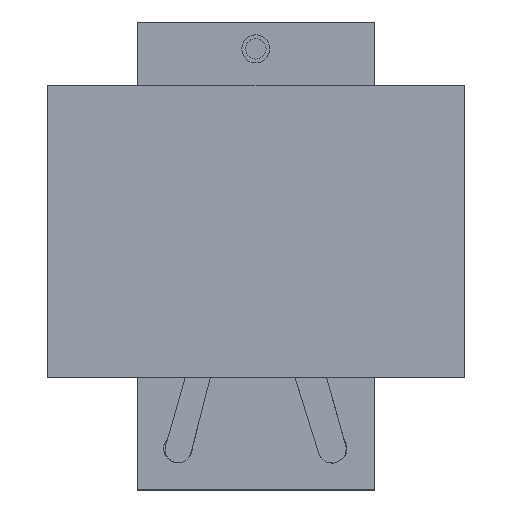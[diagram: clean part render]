
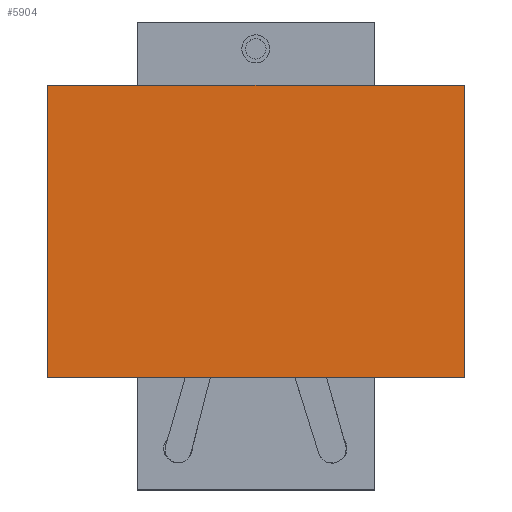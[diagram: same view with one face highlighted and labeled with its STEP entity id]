
A CAD part, top view. The second image highlights one B-rep face of the part: STEP entity #5904.
In plain terms, the highlighted planar face has unit normal (0, 0, 1).
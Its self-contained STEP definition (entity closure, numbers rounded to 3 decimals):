
#1420 = PLANE('',#1421);
#1421 = AXIS2_PLACEMENT_3D('',#1422,#1423,#1424);
#1422 = CARTESIAN_POINT('',(-13.823,9.675,10.22));
#1423 = DIRECTION('',(0.,1.,0.));
#1424 = DIRECTION('',(1.,0.,0.));
#1448 = PLANE('',#1449);
#1449 = AXIS2_PLACEMENT_3D('',#1450,#1451,#1452);
#1450 = CARTESIAN_POINT('',(-13.823,-9.688,10.22));
#1451 = DIRECTION('',(-1.,0.,0.));
#1452 = DIRECTION('',(0.,1.,0.));
#1476 = PLANE('',#1477);
#1477 = AXIS2_PLACEMENT_3D('',#1478,#1479,#1480);
#1478 = CARTESIAN_POINT('',(13.789,-9.688,10.22));
#1479 = DIRECTION('',(0.,-1.,0.));
#1480 = DIRECTION('',(-1.,0.,0.));
#1969 = PLANE('',#1970);
#1970 = AXIS2_PLACEMENT_3D('',#1971,#1972,#1973);
#1971 = CARTESIAN_POINT('',(13.789,9.675,10.22));
#1972 = DIRECTION('',(1.,0.,-0.));
#1973 = DIRECTION('',(0.,-1.,0.));
#3426 = VERTEX_POINT('',#3427);
#3427 = CARTESIAN_POINT('',(-13.823,9.675,12.7));
#3448 = EDGE_CURVE('',#3426,#3449,#3451,.T.);
#3449 = VERTEX_POINT('',#3450);
#3450 = CARTESIAN_POINT('',(13.789,9.675,12.7));
#3451 = SURFACE_CURVE('',#3452,(#3456,#3463),.PCURVE_S1.);
#3452 = LINE('',#3453,#3454);
#3453 = CARTESIAN_POINT('',(-13.823,9.675,12.7));
#3454 = VECTOR('',#3455,1.);
#3455 = DIRECTION('',(1.,0.,0.));
#3456 = PCURVE('',#1420,#3457);
#3457 = DEFINITIONAL_REPRESENTATION('',(#3458),#3462);
#3458 = LINE('',#3459,#3460);
#3459 = CARTESIAN_POINT('',(0.,-2.48));
#3460 = VECTOR('',#3461,1.);
#3461 = DIRECTION('',(1.,0.));
#3462 = ( GEOMETRIC_REPRESENTATION_CONTEXT(2) 
PARAMETRIC_REPRESENTATION_CONTEXT() REPRESENTATION_CONTEXT('2D SPACE',''
  ) );
#3463 = PCURVE('',#3464,#3469);
#3464 = PLANE('',#3465);
#3465 = AXIS2_PLACEMENT_3D('',#3466,#3467,#3468);
#3466 = CARTESIAN_POINT('',(-0.017,-0.006,12.7));
#3467 = DIRECTION('',(0.,0.,1.));
#3468 = DIRECTION('',(1.,0.,0.));
#3469 = DEFINITIONAL_REPRESENTATION('',(#3470),#3474);
#3470 = LINE('',#3471,#3472);
#3471 = CARTESIAN_POINT('',(-13.806,9.681));
#3472 = VECTOR('',#3473,1.);
#3473 = DIRECTION('',(1.,0.));
#3474 = ( GEOMETRIC_REPRESENTATION_CONTEXT(2) 
PARAMETRIC_REPRESENTATION_CONTEXT() REPRESENTATION_CONTEXT('2D SPACE',''
  ) );
#3502 = EDGE_CURVE('',#3449,#3503,#3505,.T.);
#3503 = VERTEX_POINT('',#3504);
#3504 = CARTESIAN_POINT('',(13.789,-9.688,12.7));
#3505 = SURFACE_CURVE('',#3506,(#3510,#3517),.PCURVE_S1.);
#3506 = LINE('',#3507,#3508);
#3507 = CARTESIAN_POINT('',(13.789,9.675,12.7));
#3508 = VECTOR('',#3509,1.);
#3509 = DIRECTION('',(0.,-1.,0.));
#3510 = PCURVE('',#1969,#3511);
#3511 = DEFINITIONAL_REPRESENTATION('',(#3512),#3516);
#3512 = LINE('',#3513,#3514);
#3513 = CARTESIAN_POINT('',(0.,-2.48));
#3514 = VECTOR('',#3515,1.);
#3515 = DIRECTION('',(1.,0.));
#3516 = ( GEOMETRIC_REPRESENTATION_CONTEXT(2) 
PARAMETRIC_REPRESENTATION_CONTEXT() REPRESENTATION_CONTEXT('2D SPACE',''
  ) );
#3517 = PCURVE('',#3464,#3518);
#3518 = DEFINITIONAL_REPRESENTATION('',(#3519),#3523);
#3519 = LINE('',#3520,#3521);
#3520 = CARTESIAN_POINT('',(13.806,9.681));
#3521 = VECTOR('',#3522,1.);
#3522 = DIRECTION('',(0.,-1.));
#3523 = ( GEOMETRIC_REPRESENTATION_CONTEXT(2) 
PARAMETRIC_REPRESENTATION_CONTEXT() REPRESENTATION_CONTEXT('2D SPACE',''
  ) );
#3552 = EDGE_CURVE('',#3503,#3553,#3555,.T.);
#3553 = VERTEX_POINT('',#3554);
#3554 = CARTESIAN_POINT('',(-13.823,-9.688,12.7));
#3555 = SURFACE_CURVE('',#3556,(#3560,#3567),.PCURVE_S1.);
#3556 = LINE('',#3557,#3558);
#3557 = CARTESIAN_POINT('',(13.789,-9.688,12.7));
#3558 = VECTOR('',#3559,1.);
#3559 = DIRECTION('',(-1.,0.,0.));
#3560 = PCURVE('',#1476,#3561);
#3561 = DEFINITIONAL_REPRESENTATION('',(#3562),#3566);
#3562 = LINE('',#3563,#3564);
#3563 = CARTESIAN_POINT('',(0.,-2.48));
#3564 = VECTOR('',#3565,1.);
#3565 = DIRECTION('',(1.,0.));
#3566 = ( GEOMETRIC_REPRESENTATION_CONTEXT(2) 
PARAMETRIC_REPRESENTATION_CONTEXT() REPRESENTATION_CONTEXT('2D SPACE',''
  ) );
#3567 = PCURVE('',#3464,#3568);
#3568 = DEFINITIONAL_REPRESENTATION('',(#3569),#3573);
#3569 = LINE('',#3570,#3571);
#3570 = CARTESIAN_POINT('',(13.806,-9.681));
#3571 = VECTOR('',#3572,1.);
#3572 = DIRECTION('',(-1.,0.));
#3573 = ( GEOMETRIC_REPRESENTATION_CONTEXT(2) 
PARAMETRIC_REPRESENTATION_CONTEXT() REPRESENTATION_CONTEXT('2D SPACE',''
  ) );
#4747 = EDGE_CURVE('',#3553,#3426,#4748,.T.);
#4748 = SURFACE_CURVE('',#4749,(#4753,#4760),.PCURVE_S1.);
#4749 = LINE('',#4750,#4751);
#4750 = CARTESIAN_POINT('',(-13.823,-9.688,12.7));
#4751 = VECTOR('',#4752,1.);
#4752 = DIRECTION('',(0.,1.,0.));
#4753 = PCURVE('',#1448,#4754);
#4754 = DEFINITIONAL_REPRESENTATION('',(#4755),#4759);
#4755 = LINE('',#4756,#4757);
#4756 = CARTESIAN_POINT('',(0.,-2.48));
#4757 = VECTOR('',#4758,1.);
#4758 = DIRECTION('',(1.,0.));
#4759 = ( GEOMETRIC_REPRESENTATION_CONTEXT(2) 
PARAMETRIC_REPRESENTATION_CONTEXT() REPRESENTATION_CONTEXT('2D SPACE',''
  ) );
#4760 = PCURVE('',#3464,#4761);
#4761 = DEFINITIONAL_REPRESENTATION('',(#4762),#4766);
#4762 = LINE('',#4763,#4764);
#4763 = CARTESIAN_POINT('',(-13.806,-9.681));
#4764 = VECTOR('',#4765,1.);
#4765 = DIRECTION('',(0.,1.));
#4766 = ( GEOMETRIC_REPRESENTATION_CONTEXT(2) 
PARAMETRIC_REPRESENTATION_CONTEXT() REPRESENTATION_CONTEXT('2D SPACE',''
  ) );
#5904 = ADVANCED_FACE('',(#5905),#3464,.T.);
#5905 = FACE_BOUND('',#5906,.F.);
#5906 = EDGE_LOOP('',(#5907,#5908,#5909,#5910));
#5907 = ORIENTED_EDGE('',*,*,#3448,.T.);
#5908 = ORIENTED_EDGE('',*,*,#3502,.T.);
#5909 = ORIENTED_EDGE('',*,*,#3552,.T.);
#5910 = ORIENTED_EDGE('',*,*,#4747,.T.);
